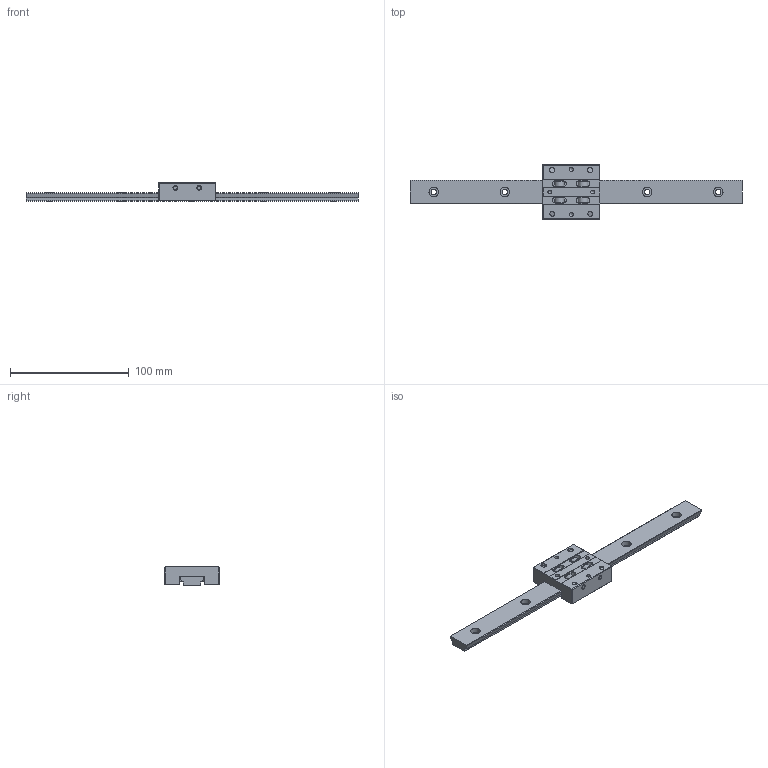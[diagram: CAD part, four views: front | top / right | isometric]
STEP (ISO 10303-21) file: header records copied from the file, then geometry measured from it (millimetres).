
FILE_DESCRIPTION((''),'2;1');
FILE_NAME('D:\製品 (図面)\カタログ用3D\リニアガイド関連\STEP形式\SMG\SMG15.stp','2010-06-02T17:08:50',('Tsuchiya'),(''),'Autodesk Inventor 10','Autodesk Inventor 10','');
FILE_SCHEMA(('AUTOMOTIVE_DESIGN { 1 0 10303 214 1 1 1 1 }'));
Length unit declared in the file: millimetre
Products named in the file (3): SMG15; SMG151; SMG152
Assembly tree (2 placements, depth 2):
  SMG15
    SMG151
    SMG152
Bounding box: 280 x 46 x 16 mm (x, y, z)
Volume: 59007.3 mm3; surface area: 26420.4 mm2
Topology: 2 solids, 2 shells, 163 faces, 386 edges, 260 vertices
Faces by surface type: plane 70, bspline 65, cylinder 24, cone 4
Full cylindrical faces by diameter (mm): 3 x6, 4 x1, 4.5 x3, 8 x2, 12 x2
Entity records: 4882 total; most frequent: CARTESIAN_POINT 1463, DIRECTION 646, ORIENTED_EDGE 616, EDGE_CURVE 308, EDGE_LOOP 272, AXIS2_PLACEMENT_3D 235, VERTEX_POINT 232, VECTOR 176
